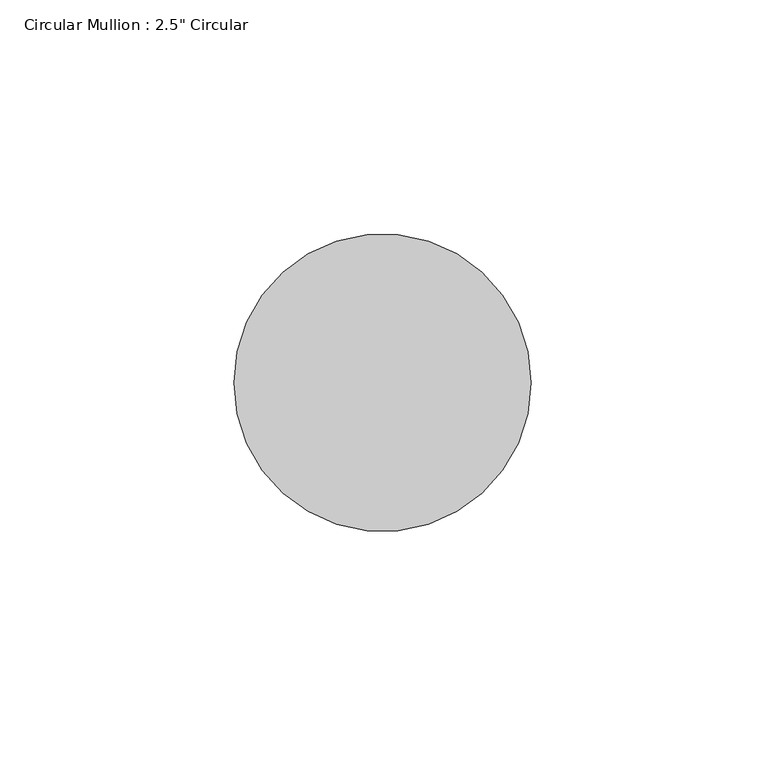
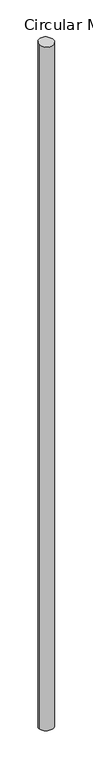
"""IFC4 building model written with IfcOpenShell, lengths in millimetres: member geometry."""

from ifc_helpers import new_model, si_unit, frame, origin, origin_with_axes, place, context, project, spatial, ellipse_curve, source, transform, mapped, element, save
from ifc_brep_helpers import plane_surface, cylinder_surface, advanced_brep


def member_b313507f(model_context):
    return source(origin(), model_context, "Body", "AdvancedBrep", [
        advanced_brep(
        [(-31.75, 0.0, 0.8095011), (31.75, 0.0, -0.8095011), (31.75, 0.0, -3122.0152525), (-31.75, 0.0, -3123.1228482)],
        [
            (0, 1, ellipse_curve(frame((0.0, 0.0, 0.0), z_axis=(-0.025407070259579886, 0.07953561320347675, -0.9965081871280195), x_axis=(-0.3032315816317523, 0.9492519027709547, 0.08349510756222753)), 31.8612535, 31.75)),
            (1, 2),
            (2, 3, ellipse_curve(frame((0.0, 0.0, -3122.5690503), z_axis=(-0.017414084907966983, 0.054284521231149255, 0.9983736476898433), x_axis=(0.3049636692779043, -0.9506561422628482, 0.05700929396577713)), 31.8017208, 31.75)),
            (3, 0),
            (1, 0, ellipse_curve(frame((0.0, 0.0, 0.0), z_axis=(-0.025407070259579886, 0.07953561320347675, -0.9965081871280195), x_axis=(-0.3032315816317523, 0.9492519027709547, 0.08349510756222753)), 31.8612535, 31.75)),
            (3, 2, ellipse_curve(frame((0.0, 0.0, -3122.5690503), z_axis=(-0.017414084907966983, 0.054284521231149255, 0.9983736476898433), x_axis=(0.3049636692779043, -0.9506561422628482, 0.05700929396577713)), 31.8017208, 31.75)),
        ],
        [
            cylinder_surface(origin_with_axes(), 31.75),
            plane_surface(frame((290.3458132, 92.7488477, 0.0), z_axis=(0.025407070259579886, -0.07953561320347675, 0.9965081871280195), x_axis=(0.3032315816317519, -0.9492519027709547, -0.08349510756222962))),
            plane_surface(frame((290.2320117, 93.1043469, -3122.5690503), z_axis=(0.01741408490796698, -0.05428452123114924, -0.998373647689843), x_axis=(0.30496366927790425, -0.9506561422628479, 0.05700929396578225))),
        ],
        [
            (0, [[1, 2, 3, 4]]),
            (0, [[5, -4, 6, -2]]),
            (1, [[-1, -5]]),
            (2, [[-6, -3]]),
        ],
    ),
    ])


if __name__ == "__main__":
    model = new_model("IFC4")
    model_context = context("Model", 3, world=origin())
    ifc_project = project(units=[si_unit("LENGTHUNIT", "METRE", prefix="MILLI")], contexts=[model_context])
    site = spatial("IfcSite", under=ifc_project)
    building = spatial("IfcBuilding", under=site)
    placement = place(None, origin())
    member_shape = member_b313507f(model_context)
    element("IfcMember", 1, ObjectType="Circular Mullion : 2.5\" Circular", at=placement, inside=building, context=model_context, shape_type="MappedRepresentation", body=[
        mapped(member_shape, transform((0.0, 0.0, 0.0), x_axis=(1.0, 0.0, 0.0), y_axis=(0.0, 1.0, 0.0), z_axis=(0.0, 0.0, 1.0))),
    ])
    save(model, "model.ifc")
